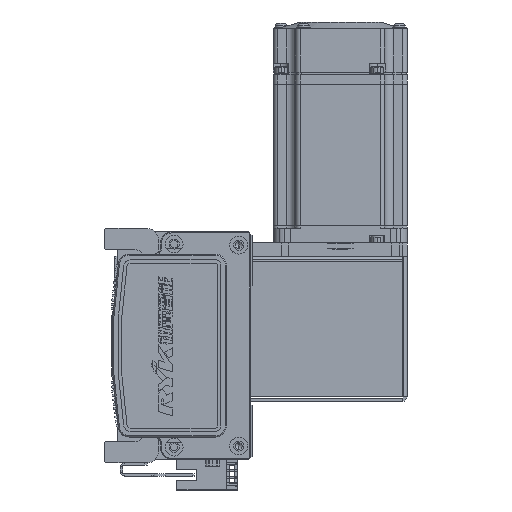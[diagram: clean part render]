
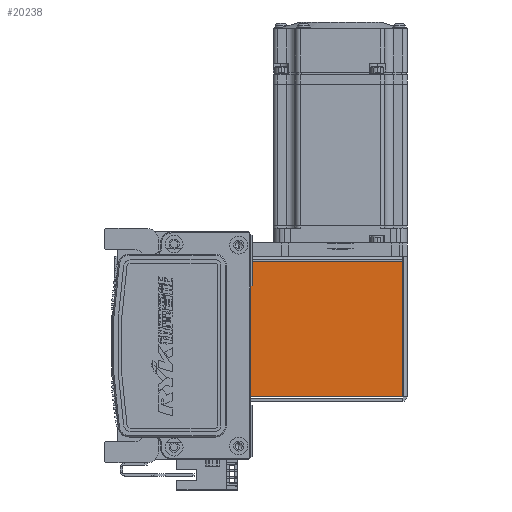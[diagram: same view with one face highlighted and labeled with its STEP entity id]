
A CAD part, left-side view. The second image highlights one B-rep face of the part: STEP entity #20238.
In plain terms, the highlighted planar face has unit normal (-1, 0, 0) as drawn and (0, 0, 1) by its records, which use the part's own axes.
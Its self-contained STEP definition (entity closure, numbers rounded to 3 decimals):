
#3290 = ORIENTED_EDGE ( 'NONE', *, *, #34674, .F. ) ;
#4760 = CARTESIAN_POINT ( 'NONE',  ( -32.5, 0.737, 35. ) ) ;
#8112 = LINE ( 'NONE', #39165, #28657 ) ;
#9237 = CARTESIAN_POINT ( 'NONE',  ( 30.263, 72.5, 35. ) ) ;
#10138 = EDGE_CURVE ( 'NONE', #18860, #15820, #40364, .T. ) ;
#10180 = DIRECTION ( 'NONE',  ( 0., 1., 0. ) ) ;
#10570 = DIRECTION ( 'NONE',  ( -1., 0., 0. ) ) ;
#10616 = VECTOR ( 'NONE', #43645, 1000. ) ;
#13529 = LINE ( 'NONE', #58656, #43660 ) ;
#13971 = AXIS2_PLACEMENT_3D ( 'NONE', #43276, #48537, #10570 ) ;
#15820 = VERTEX_POINT ( 'NONE', #38890 ) ;
#16611 = LINE ( 'NONE', #4760, #10616 ) ;
#18860 = VERTEX_POINT ( 'NONE', #9237 ) ;
#20238 = ADVANCED_FACE ( 'NONE', ( #37046 ), #48998, .F. ) ;
#27573 = DIRECTION ( 'NONE',  ( 0., 1., 0. ) ) ;
#28657 = VECTOR ( 'NONE', #27573, 1000. ) ;
#30355 = DIRECTION ( 'NONE',  ( -1., 0., 0. ) ) ;
#32366 = VERTEX_POINT ( 'NONE', #41490 ) ;
#34674 = EDGE_CURVE ( 'NONE', #70192, #15820, #8112, .T. ) ;
#35242 = VECTOR ( 'NONE', #30355, 1000. ) ;
#36513 = ORIENTED_EDGE ( 'NONE', *, *, #60922, .T. ) ;
#37046 = FACE_OUTER_BOUND ( 'NONE', #70036, .T. ) ;
#38890 = CARTESIAN_POINT ( 'NONE',  ( -30.293, 72.5, 35. ) ) ;
#39165 = CARTESIAN_POINT ( 'NONE',  ( -30.293, 0., 35. ) ) ;
#40364 = LINE ( 'NONE', #69271, #35242 ) ;
#41490 = CARTESIAN_POINT ( 'NONE',  ( 30.263, 0.737, 35. ) ) ;
#42892 = ORIENTED_EDGE ( 'NONE', *, *, #51098, .F. ) ;
#43276 = CARTESIAN_POINT ( 'NONE',  ( 0., 0., 35. ) ) ;
#43645 = DIRECTION ( 'NONE',  ( -1., 0., 0. ) ) ;
#43660 = VECTOR ( 'NONE', #10180, 1000. ) ;
#44941 = ORIENTED_EDGE ( 'NONE', *, *, #10138, .T. ) ;
#46011 = CARTESIAN_POINT ( 'NONE',  ( -30.293, 0.737, 35. ) ) ;
#48537 = DIRECTION ( 'NONE',  ( 0., 0., -1. ) ) ;
#48998 = PLANE ( 'NONE',  #13971 ) ;
#51098 = EDGE_CURVE ( 'NONE', #32366, #70192, #16611, .T. ) ;
#58656 = CARTESIAN_POINT ( 'NONE',  ( 30.263, 0.737, 35. ) ) ;
#60922 = EDGE_CURVE ( 'NONE', #32366, #18860, #13529, .T. ) ;
#69271 = CARTESIAN_POINT ( 'NONE',  ( 0., 72.5, 35. ) ) ;
#70036 = EDGE_LOOP ( 'NONE', ( #36513, #44941, #3290, #42892 ) ) ;
#70192 = VERTEX_POINT ( 'NONE', #46011 ) ;
